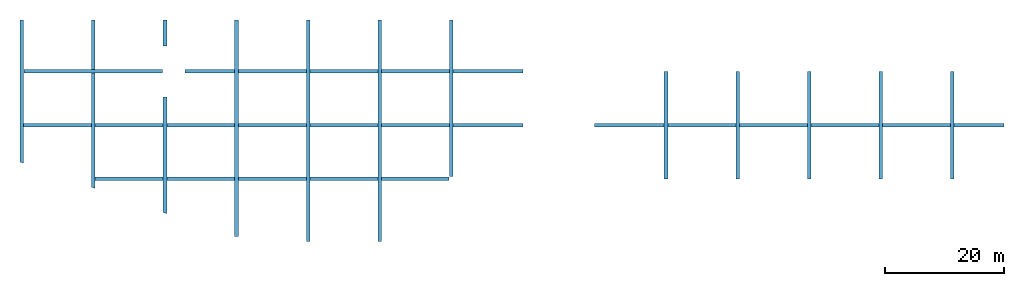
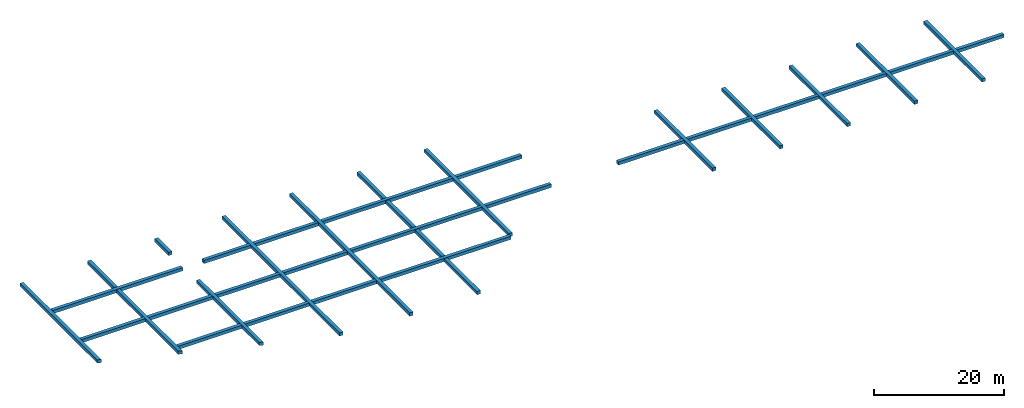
# One storey: 18 beams.
"""IFC2X3 building model written with IfcOpenShell, lengths in millimetres."""

from ifc_helpers import new_model, si_unit, origin, place, context, project, spatial, faceted_brep, material, element, save


model = new_model("IFC2X3")

# Units and contexts
context_of_model = context(None, 3, precision=1e-05, world=origin())
ifc_project = project(units=[si_unit("LENGTHUNIT", "METRE", prefix="MILLI")], contexts=[context_of_model])

# Building, storey
building = spatial("IfcBuilding", under=ifc_project, Name="Building", CompositionType="ELEMENT")
storey = spatial("IfcBuildingStorey", under=building, Name="FL1-FRM", CompositionType="ELEMENT")

# Beams
ifc_material_1 = material(Name="C4000")
beam_1_placement = place(None, origin())
element("IfcBeam", 1, at=beam_1_placement, inside=storey, material=ifc_material_1, Name="B51", context=context_of_model, shape_type="Brep", body=[
    faceted_brep([(12000.0, 18304.8, -812.8), (12000.0, 18304.8, -203.2), (80650.0, 18304.8, -203.2), (80650.0, 18304.8, -812.8), (12000.0, 17695.2, -203.2), (80650.0, 17695.2, -203.2), (12000.0, 17695.2, -812.8), (80650.0, 17695.2, -812.8)], [[[0, 1, 2, 3]], [[1, 4, 5, 2]], [[4, 6, 7, 5]], [[6, 0, 3, 7]], [[0, 6, 4, 1]], [[3, 2, 5, 7]]]),
])
ifc_material_2 = material(Name="C4000")
beam_2_placement = place(None, origin())
element("IfcBeam", 2, at=beam_2_placement, inside=storey, material=ifc_material_2, Name="B680", context=context_of_model, shape_type="Brep", body=[
    faceted_brep([(-11695.2, 35619.0, -787.4), (-11695.2, 35619.0, -177.8), (-11695.2, 9400.05, -177.8), (-11695.2, 9400.05, -787.4), (-12304.8, 35619.0, -177.8), (-12304.8, 9400.05, -177.8), (-12304.8, 35619.0, -787.4), (-12304.8, 9400.05, -787.4)], [[[0, 1, 2, 3]], [[1, 4, 5, 2]], [[4, 6, 7, 5]], [[6, 0, 3, 7]], [[0, 6, 4, 1]], [[3, 2, 5, 7]]]),
])
ifc_material_3 = material(Name="C4000")
beam_3_placement = place(None, origin())
element("IfcBeam", 3, at=beam_3_placement, inside=storey, material=ifc_material_3, Name="B681", context=context_of_model, shape_type="Brep", body=[
    faceted_brep([(-24304.8, -1500.0, -863.6), (-24304.8, -1500.0, -254.0), (-24304.8, 35619.0, -254.0), (-24304.8, 35619.0, -863.6), (-23695.2, -1500.0, -254.0), (-23695.2, 35619.0, -254.0), (-23695.2, -1500.0, -863.6), (-23695.2, 35619.0, -863.6)], [[[0, 1, 2, 3]], [[1, 4, 5, 2]], [[4, 6, 7, 5]], [[6, 0, 3, 7]], [[0, 6, 4, 1]], [[3, 2, 5, 7]]]),
])
ifc_material_4 = material(Name="C4000")
beam_4_placement = place(None, origin())
element("IfcBeam", 4, at=beam_4_placement, inside=storey, material=ifc_material_4, Name="B683", context=context_of_model, shape_type="Brep", body=[
    faceted_brep([(-48304.8, -641.096, -787.4), (-48304.8, -641.096, -177.8), (-48304.8, 35619.0, -177.8), (-48304.8, 35619.0, -787.4), (-47695.2, -641.096, -177.8), (-47695.2, 35619.0, -177.8), (-47695.2, -641.096, -787.4), (-47695.2, 35619.0, -787.4)], [[[0, 1, 2, 3]], [[1, 4, 5, 2]], [[4, 6, 7, 5]], [[6, 0, 3, 7]], [[0, 6, 4, 1]], [[3, 2, 5, 7]]]),
])
ifc_material_5 = material(Name="C4000")
beam_5_placement = place(None, origin())
element("IfcBeam", 5, at=beam_5_placement, inside=storey, material=ifc_material_5, Name="B684", context=context_of_model, shape_type="Brep", body=[
    faceted_brep([(-60304.8, 3363.75, -787.4), (-60304.8, 3363.75, -177.8), (-60304.8, 22700.0, -177.8), (-60304.8, 22700.0, -787.4), (-59695.2, 3149.46, -177.8), (-59695.2, 22700.0, -177.8), (-59695.2, 3149.46, -787.4), (-59695.2, 22700.0, -787.4)], [[[0, 1, 2, 3]], [[1, 4, 5, 2]], [[4, 6, 7, 5]], [[6, 0, 3, 7]], [[0, 6, 4, 1]], [[3, 2, 5, 7]]]),
])
ifc_material_6 = material(Name="C4000")
beam_6_placement = place(None, origin())
element("IfcBeam", 6, at=beam_6_placement, inside=storey, material=ifc_material_6, Name="B685", context=context_of_model, shape_type="Brep", body=[
    faceted_brep([(-72304.8, 7581.99, -787.4), (-72304.8, 7581.99, -177.8), (-72304.8, 35619.0, -177.8), (-72304.8, 35619.0, -787.4), (-71695.2, 7367.71, -177.8), (-71695.2, 35619.0, -177.8), (-71695.2, 7367.71, -787.4), (-71695.2, 35619.0, -787.4)], [[[0, 1, 2, 3]], [[1, 4, 5, 2]], [[4, 6, 7, 5]], [[6, 0, 3, 7]], [[0, 6, 4, 1]], [[3, 2, 5, 7]]]),
])
ifc_material_7 = material(Name="C4000")
beam_7_placement = place(None, origin())
element("IfcBeam", 7, at=beam_7_placement, inside=storey, material=ifc_material_7, Name="B686", context=context_of_model, shape_type="Brep", body=[
    faceted_brep([(-84304.8, 11800.2, -787.4), (-84304.8, 11800.2, -177.8), (-84304.8, 35619.0, -177.8), (-84304.8, 35619.0, -787.4), (-83695.2, 11585.9, -177.8), (-83695.2, 35619.0, -177.8), (-83695.2, 11585.9, -787.4), (-83695.2, 35619.0, -787.4)], [[[0, 1, 2, 3]], [[1, 4, 5, 2]], [[4, 6, 7, 5]], [[6, 0, 3, 7]], [[0, 6, 4, 1]], [[3, 2, 5, 7]]]),
])
ifc_material_8 = material(Name="C4000")
beam_8_placement = place(None, origin())
element("IfcBeam", 8, at=beam_8_placement, inside=storey, material=ifc_material_8, Name="B687", context=context_of_model, shape_type="Brep", body=[
    faceted_brep([(0.0, 26695.2, -787.4), (0.0, 26695.2, -177.8), (-56650.0, 26695.2, -177.8), (-56650.0, 26695.2, -787.4), (0.0, 27304.8, -177.8), (-56650.0, 27304.8, -177.8), (0.0, 27304.8, -787.4), (-56650.0, 27304.8, -787.4)], [[[0, 1, 2, 3]], [[1, 4, 5, 2]], [[4, 6, 7, 5]], [[6, 0, 3, 7]], [[0, 6, 4, 1]], [[3, 2, 5, 7]]]),
])
ifc_material_9 = material(Name="C4000")
beam_9_placement = place(None, origin())
element("IfcBeam", 9, at=beam_9_placement, inside=storey, material=ifc_material_9, Name="B688", context=context_of_model, shape_type="Brep", body=[
    faceted_brep([(-60418.0, 26695.2, -787.4), (-60418.0, 26695.2, -177.8), (-83599.9, 26695.2, -177.8), (-83599.9, 26695.2, -787.4), (-60418.0, 27304.8, -177.8), (-83599.9, 27304.8, -177.8), (-60418.0, 27304.8, -787.4), (-83599.9, 27304.8, -787.4)], [[[0, 1, 2, 3]], [[1, 4, 5, 2]], [[4, 6, 7, 5]], [[6, 0, 3, 7]], [[0, 6, 4, 1]], [[3, 2, 5, 7]]]),
])
ifc_material_10 = material(Name="C4000")
beam_10_placement = place(None, origin())
element("IfcBeam", 10, at=beam_10_placement, inside=storey, material=ifc_material_10, Name="B689", context=context_of_model, shape_type="Brep", body=[
    faceted_brep([(0.0, 17695.2, -787.4), (0.0, 17695.2, -177.8), (-83695.2, 17695.2, -177.8), (-83695.2, 17695.2, -787.4), (0.0, 18304.8, -177.8), (-83695.2, 18304.8, -177.8), (0.0, 18304.8, -787.4), (-83695.2, 18304.8, -787.4)], [[[0, 1, 2, 3]], [[1, 4, 5, 2]], [[4, 6, 7, 5]], [[6, 0, 3, 7]], [[0, 6, 4, 1]], [[3, 2, 5, 7]]]),
])
ifc_material_11 = material(Name="C4000")
beam_11_placement = place(None, origin())
element("IfcBeam", 11, at=beam_11_placement, inside=storey, material=ifc_material_11, Name="B690", context=context_of_model, shape_type="Brep", body=[
    faceted_brep([(-12400.1, 8695.2, -787.4), (-12400.1, 8695.2, -177.8), (-71695.2, 8695.2, -177.8), (-71695.2, 8695.2, -787.4), (-12400.1, 9304.8, -177.8), (-71695.2, 9304.8, -177.8), (-12400.1, 9304.8, -787.4), (-71695.2, 9304.8, -787.4)], [[[0, 1, 2, 3]], [[1, 4, 5, 2]], [[4, 6, 7, 5]], [[6, 0, 3, 7]], [[0, 6, 4, 1]], [[3, 2, 5, 7]]]),
])
ifc_material_12 = material(Name="C4000")
beam_12_placement = place(None, origin())
element("IfcBeam", 12, at=beam_12_placement, inside=storey, material=ifc_material_12, Name="B787", context=context_of_model, shape_type="Brep", body=[
    faceted_brep([(-60304.8, 31300.0, -787.4), (-60304.8, 31300.0, -177.8), (-60304.8, 35619.0, -177.8), (-60304.8, 35619.0, -787.4), (-59695.2, 31300.0, -177.8), (-59695.2, 35619.0, -177.8), (-59695.2, 31300.0, -787.4), (-59695.2, 35619.0, -787.4)], [[[0, 1, 2, 3]], [[1, 4, 5, 2]], [[4, 6, 7, 5]], [[6, 0, 3, 7]], [[0, 6, 4, 1]], [[3, 2, 5, 7]]]),
])
ifc_material_13 = material(Name="C4000")
beam_13_placement = place(None, origin())
element("IfcBeam", 13, at=beam_13_placement, inside=storey, material=ifc_material_13, Name="B1211", context=context_of_model, shape_type="Brep", body=[
    faceted_brep([(23695.2, 9004.95, -812.8), (23695.2, 9004.95, -203.2), (23695.2, 26995.1, -203.2), (23695.2, 26995.1, -812.8), (24304.8, 9004.95, -203.2), (24304.8, 26995.1, -203.2), (24304.8, 9004.95, -812.8), (24304.8, 26995.1, -812.8)], [[[0, 1, 2, 3]], [[1, 4, 5, 2]], [[4, 6, 7, 5]], [[6, 0, 3, 7]], [[0, 6, 4, 1]], [[3, 2, 5, 7]]]),
])
ifc_material_14 = material(Name="C4000")
beam_14_placement = place(None, origin())
element("IfcBeam", 14, at=beam_14_placement, inside=storey, material=ifc_material_14, Name="B1212", context=context_of_model, shape_type="Brep", body=[
    faceted_brep([(35695.2, 9004.95, -812.8), (35695.2, 9004.95, -203.2), (35695.2, 26995.1, -203.2), (35695.2, 26995.1, -812.8), (36304.8, 9004.95, -203.2), (36304.8, 26995.1, -203.2), (36304.8, 9004.95, -812.8), (36304.8, 26995.1, -812.8)], [[[0, 1, 2, 3]], [[1, 4, 5, 2]], [[4, 6, 7, 5]], [[6, 0, 3, 7]], [[0, 6, 4, 1]], [[3, 2, 5, 7]]]),
])
ifc_material_15 = material(Name="C4000")
beam_15_placement = place(None, origin())
element("IfcBeam", 15, at=beam_15_placement, inside=storey, material=ifc_material_15, Name="B1213", context=context_of_model, shape_type="Brep", body=[
    faceted_brep([(47695.2, 9004.95, -812.8), (47695.2, 9004.95, -203.2), (47695.2, 26995.1, -203.2), (47695.2, 26995.1, -812.8), (48304.8, 9004.95, -203.2), (48304.8, 26995.1, -203.2), (48304.8, 9004.95, -812.8), (48304.8, 26995.1, -812.8)], [[[0, 1, 2, 3]], [[1, 4, 5, 2]], [[4, 6, 7, 5]], [[6, 0, 3, 7]], [[0, 6, 4, 1]], [[3, 2, 5, 7]]]),
])
ifc_material_16 = material(Name="C4000")
beam_16_placement = place(None, origin())
element("IfcBeam", 16, at=beam_16_placement, inside=storey, material=ifc_material_16, Name="B1214", context=context_of_model, shape_type="Brep", body=[
    faceted_brep([(59695.2, 9004.95, -812.8), (59695.2, 9004.95, -203.2), (59695.2, 26994.1, -203.2), (59695.2, 26994.1, -812.8), (60304.8, 9004.95, -203.2), (60304.8, 26994.1, -203.2), (60304.8, 9004.95, -812.8), (60304.8, 26994.1, -812.8)], [[[0, 1, 2, 3]], [[1, 4, 5, 2]], [[4, 6, 7, 5]], [[6, 0, 3, 7]], [[0, 6, 4, 1]], [[3, 2, 5, 7]]]),
])
ifc_material_17 = material(Name="C4000")
beam_17_placement = place(None, origin())
element("IfcBeam", 17, at=beam_17_placement, inside=storey, material=ifc_material_17, Name="B1215", context=context_of_model, shape_type="Brep", body=[
    faceted_brep([(71695.2, 9004.95, -812.8), (71695.2, 9004.95, -203.2), (71695.2, 26994.1, -203.2), (71695.2, 26994.1, -812.8), (72304.8, 9004.95, -203.2), (72304.8, 26994.1, -203.2), (72304.8, 9004.95, -812.8), (72304.8, 26994.1, -812.8)], [[[0, 1, 2, 3]], [[1, 4, 5, 2]], [[4, 6, 7, 5]], [[6, 0, 3, 7]], [[0, 6, 4, 1]], [[3, 2, 5, 7]]]),
])
ifc_material_18 = material(Name="C4000")
beam_18_placement = place(None, origin())
element("IfcBeam", 18, at=beam_18_placement, inside=storey, material=ifc_material_18, Name="B1216", context=context_of_model, shape_type="Brep", body=[
    faceted_brep([(-35695.2, 35619.0, -711.2), (-35695.2, 35619.0, -101.6), (-35695.2, -1500.0, -101.6), (-35695.2, -1500.0, -711.2), (-36304.8, 35619.0, -101.6), (-36304.8, -1500.0, -101.6), (-36304.8, 35619.0, -711.2), (-36304.8, -1500.0, -711.2)], [[[0, 1, 2, 3]], [[1, 4, 5, 2]], [[4, 6, 7, 5]], [[6, 0, 3, 7]], [[0, 6, 4, 1]], [[3, 2, 5, 7]]]),
])

save(model, "model.ifc")
